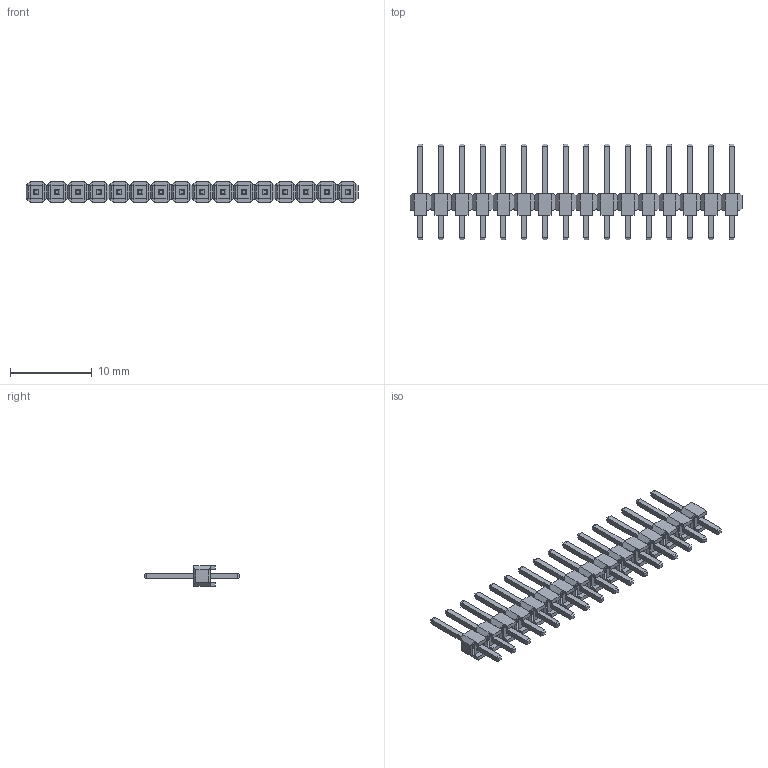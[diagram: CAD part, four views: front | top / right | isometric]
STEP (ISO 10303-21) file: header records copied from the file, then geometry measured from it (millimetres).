
FILE_DESCRIPTION(('FreeCAD Model'),'2;1');
FILE_NAME('Open CASCADE Shape Model','2025-01-09T12:55:09',(''),(''), 'Open CASCADE STEP processor 7.8','FreeCAD','Unknown');
FILE_SCHEMA(('AUTOMOTIVE_DESIGN { 1 0 10303 214 1 1 1 1 }'));
Length unit declared in the file: millimetre
Products named in the file (5): M20_999xxxx_tin; Array; Body; Array001; Body001
Assembly tree (34 placements, depth 3):
  M20_999xxxx_tin
    Array
      Body  x16
    Array001
      Body001  x16
Bounding box: 40.64 x 11.74 x 2.54 mm (x, y, z)
Volume: 76 mm3; surface area: 1095.4 mm2
Topology: 16 solids, 32 shells, 736 faces, 1728 edges, 1056 vertices
Faces by surface type: plane 704, bspline 32
Entity records: 1784 total; most frequent: CARTESIAN_POINT 435, DIRECTION 264, ORIENTED_EDGE 213, EDGE_CURVE 108, LINE 106, VECTOR 106, AXIS2_PLACEMENT_3D 79, VERTEX_POINT 68
